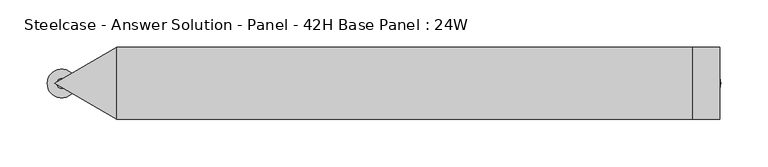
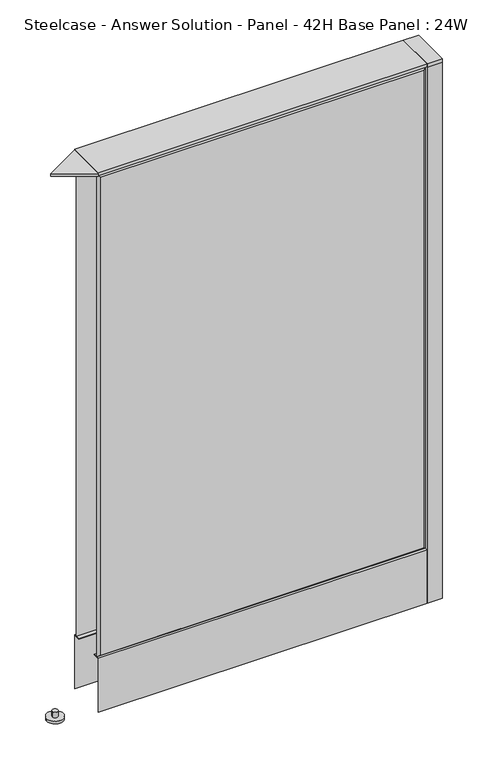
"""IFC4 building model written with IfcOpenShell, lengths in millimetres: furniture geometry, Steelcase - Answer Solution - Panel - 42H Base Panel : 24W."""

import ifcopenshell
import ifcopenshell.guid

model = None  # the IFC model being written
_history = None  # IfcOwnerHistory: only IFC2X3 demands one
_inside = {}  # id of a spatial element -> (the spatial element, [elements in it])
_under = {}  # id of a project, library or spatial element -> (it, [spatial elements below it])
_declared = {}  # id of a project -> (the project, [libraries it declares])
_typed = {}  # id of a type object -> (the type object, [elements of that type])
_made_of = {}  # id of a material, layer set ... -> (it, [elements and type objects made of it])


def new_model(schema):
    """Start an empty IFC model of exactly this schema.

    Asked for "IFC4X3", IfcOpenShell would pick the latest addendum, in which some entities
    have other attributes; the version numbers below select the first issue.
    IFC2X3 requires an IfcOwnerHistory on every rooted entity: one is made here for all.
    """
    global model, _history
    if schema == "IFC4X3":
        model = ifcopenshell.file(schema_version=(4, 3, 0, 0))
    else:
        model = ifcopenshell.file(schema=schema)
    _inside.clear()
    _under.clear()
    _declared.clear()
    _typed.clear()
    _made_of.clear()
    _history = None
    if model.schema == "IFC2X3":
        org = make("IfcOrganization", Name="unknown")
        user = make(
            "IfcPersonAndOrganization",
            ThePerson=make("IfcPerson", FamilyName="unknown"),
            TheOrganization=org,
        )
        app = make(
            "IfcApplication",
            ApplicationDeveloper=org,
            Version="unknown",
            ApplicationFullName="unknown",
            ApplicationIdentifier="unknown",
        )
        _history = make(
            "IfcOwnerHistory",
            OwningUser=user,
            OwningApplication=app,
            ChangeAction="ADDED",
            CreationDate=0,
        )
    return model


def make(cls, **values):
    """One entity of the class cls with the attributes given. An attribute that is None is left unset."""
    return model.create_entity(
        cls, **{name: value for name, value in values.items() if value is not None}
    )


def rooted(cls, **values):
    """An entity with a GlobalId (a new one), such as an element, a storey or a relation."""
    return make(cls, GlobalId=ifcopenshell.guid.new(), OwnerHistory=_history, **values)


def si_unit(unit_type, name, prefix=None):
    """IfcSIUnit, for example si_unit("LENGTHUNIT", "METRE", prefix="MILLI")."""
    return make("IfcSIUnit", UnitType=unit_type, Prefix=prefix, Name=name)


def assignment(units):
    """IfcUnitAssignment: the units of a project."""
    return None if units is None else make("IfcUnitAssignment", Units=units)


def point(xyz):
    """IfcCartesianPoint."""
    return None if xyz is None else make("IfcCartesianPoint", Coordinates=xyz)


def direction(xyz):
    """IfcDirection."""
    return None if xyz is None else make("IfcDirection", DirectionRatios=xyz)


def frame(location, z_axis=None, x_axis=None):
    """IfcAxis2Placement3D, a coordinate frame: its origin and axes. An axis left out is left unset."""
    return make(
        "IfcAxis2Placement3D",
        Location=point(location),
        Axis=direction(z_axis),
        RefDirection=direction(x_axis),
    )


def frame_2d(location, x_axis=None):
    """IfcAxis2Placement2D, a coordinate frame in the plane: its origin and x axis."""
    return make(
        "IfcAxis2Placement2D", Location=point(location), RefDirection=direction(x_axis)
    )


def origin():
    """The frame at (0, 0, 0) with its axes left unset."""
    return frame((0.0, 0.0, 0.0))


def place(relative_to, where):
    """IfcLocalPlacement: puts the frame where relative to a parent placement (None: the world)."""
    return make(
        "IfcLocalPlacement", PlacementRelTo=relative_to, RelativePlacement=where
    )


def context(
    kind, dimensions, precision=None, world=None, true_north=None, identifier=None
):
    """IfcGeometricRepresentationContext, for example the 3D "Model" context."""
    return make(
        "IfcGeometricRepresentationContext",
        ContextIdentifier=identifier,
        ContextType=kind,
        CoordinateSpaceDimension=dimensions,
        Precision=precision,
        WorldCoordinateSystem=world,
        TrueNorth=true_north,
    )


def project(units=None, contexts=None):
    """IfcProject with its units and contexts."""
    return rooted(
        "IfcProject",
        Name="project",
        RepresentationContexts=contexts,
        UnitsInContext=assignment(units),
    )


def spatial(cls, under=None, at=None, **own):
    """A site, building, storey or space (cls), placed at a placement, below another one or the project."""
    s = rooted(cls, ObjectPlacement=at, **own)
    if under is not None:
        _under.setdefault(under.id(), (under, []))[1].append(s)
    return s


def polyline(points):
    """IfcPolyline through the points."""
    return make("IfcPolyline", Points=[point(p) for p in points])


def circle_curve(where, radius):
    """IfcCircle in the frame where."""
    return make("IfcCircle", Position=where, Radius=radius)


def trimmed(basis, trim1, trim2, sense, master):
    """IfcTrimmedCurve: the piece of a basis curve between two trims."""
    return make(
        "IfcTrimmedCurve",
        BasisCurve=basis,
        Trim1=trim1,
        Trim2=trim2,
        SenseAgreement=sense,
        MasterRepresentation=master,
    )


def segment(curve, same_sense, transition):
    """IfcCompositeCurveSegment."""
    return make(
        "IfcCompositeCurveSegment",
        Transition=transition,
        SameSense=same_sense,
        ParentCurve=curve,
    )


def composite_curve(segments, self_intersect=None):
    """IfcCompositeCurve: segments joined end to end."""
    return make("IfcCompositeCurve", Segments=segments, SelfIntersect=self_intersect)


def outline(outer, holes=None, kind="AREA"):
    """IfcArbitraryClosedProfileDef: a profile drawn as a closed curve; with holes, ...WithVoids."""
    if holes is None:
        return make("IfcArbitraryClosedProfileDef", ProfileType=kind, OuterCurve=outer)
    return make(
        "IfcArbitraryProfileDefWithVoids",
        ProfileType=kind,
        OuterCurve=outer,
        InnerCurves=holes,
    )


def extrude(swept, where, along, depth):
    """IfcExtrudedAreaSolid: the profile swept, set in the frame where, extruded along a direction by depth."""
    return make(
        "IfcExtrudedAreaSolid",
        SweptArea=swept,
        Position=where,
        ExtrudedDirection=direction(along),
        Depth=depth,
    )


def faces_of(points, faces, orient=None, outer=None):
    """IfcFace entities. A face is a list of loops; a loop is a list of indices into points, from 0.

    orient and outer hold one flag for each loop. By default every Orientation is true, the
    first loop of a face is its IfcFaceOuterBound and the others are IfcFaceBound.
    """
    made = []
    for i, loops in enumerate(faces):
        bounds = []
        for j, loop in enumerate(loops):
            is_outer = j == 0 if outer is None else outer[i][j]
            bounds.append(
                make(
                    "IfcFaceOuterBound" if is_outer else "IfcFaceBound",
                    Bound=make("IfcPolyLoop", Polygon=[points[k] for k in loop]),
                    Orientation=True if orient is None else orient[i][j],
                )
            )
        made.append(make("IfcFace", Bounds=bounds))
    return made


def faceted_brep(points, faces, orient=None, outer=None, voids=None):
    """IfcFacetedBrep: a solid bounded by flat faces; with voids (closed shells), ...WithVoids."""
    shared = [point(p) for p in points]
    hull = make("IfcClosedShell", CfsFaces=faces_of(shared, faces, orient, outer))
    if voids is None:
        return make("IfcFacetedBrep", Outer=hull)
    return make(
        "IfcFacetedBrepWithVoids",
        Outer=hull,
        Voids=[
            make(cls, CfsFaces=faces_of(shared, fs, o, b)) for cls, fs, o, b in voids
        ],
    )


def shape(context_of_items, identifier, shape_type, items):
    """IfcShapeRepresentation: the items that make up one representation, for example the "Body"."""
    return make(
        "IfcShapeRepresentation",
        ContextOfItems=context_of_items,
        RepresentationIdentifier=identifier,
        RepresentationType=shape_type,
        Items=items,
    )


def source(mapping_origin, context_of_items, identifier, shape_type, items):
    """IfcRepresentationMap: a shape defined once, which mapped items show again and again."""
    return make(
        "IfcRepresentationMap",
        MappingOrigin=mapping_origin,
        MappedRepresentation=shape(context_of_items, identifier, shape_type, items),
    )


def transform(
    local_origin,
    x_axis=None,
    y_axis=None,
    z_axis=None,
    scale=None,
    scale2=None,
    scale3=None,
    uniform=True,
):
    """IfcCartesianTransformationOperator3D, or its non-uniform kind. x_axis, y_axis, z_axis: its Axis1, 2, 3."""
    if uniform:
        return make(
            "IfcCartesianTransformationOperator3D",
            Axis1=direction(x_axis),
            Axis2=direction(y_axis),
            LocalOrigin=point(local_origin),
            Scale=scale,
            Axis3=direction(z_axis),
        )
    return make(
        "IfcCartesianTransformationOperator3DnonUniform",
        Axis1=direction(x_axis),
        Axis2=direction(y_axis),
        LocalOrigin=point(local_origin),
        Scale=scale,
        Axis3=direction(z_axis),
        Scale2=scale2,
        Scale3=scale3,
    )


def mapped(mapping_source, mapping_target):
    """IfcMappedItem: shows the shape of a source again, moved by a transform."""
    return make(
        "IfcMappedItem", MappingSource=mapping_source, MappingTarget=mapping_target
    )


def made_of(thing, what):
    """Note that an element or type object is made of a material, layer set ...; save() writes the relation."""
    if what is not None:
        _made_of.setdefault(what.id(), (what, []))[1].append(thing)
    return thing


def element(
    cls,
    number,
    at=None,
    inside=None,
    cuts=None,
    type_object=None,
    material=None,
    context=None,
    identifier="Body",
    shape_type=None,
    held_by="IfcProductDefinitionShape",
    body=None,
    shapes=None,
    **own,
):
    """One element of the class cls, such as IfcWall. Its Tag is "e" and its number.

    at: its placement. inside: the storey or other place that contains it. cuts: it is an
    opening in that element (IfcRelVoidsElement). A single representation is given by context,
    identifier, shape_type and body (its items); several are given by shapes. held_by: the class
    of the entity that holds the representations. save() writes the other relations.
    """
    e = rooted(cls, Tag="e%d" % number, ObjectPlacement=at, **own)
    if body is not None:
        shapes = [shape(context, identifier, shape_type, body)]
    if shapes is not None:
        e.Representation = make(held_by, Representations=shapes)
    if inside is not None:
        _inside.setdefault(inside.id(), (inside, []))[1].append(e)
    if cuts is not None:
        rooted(
            "IfcRelVoidsElement", RelatingBuildingElement=cuts, RelatedOpeningElement=e
        )
    if type_object is not None:
        _typed.setdefault(type_object.id(), (type_object, []))[1].append(e)
    return made_of(e, material)


def aggregate(whole, parts):
    """IfcRelAggregates: a whole, such as a stair, and the parts it consists of."""
    return rooted("IfcRelAggregates", RelatingObject=whole, RelatedObjects=parts)


def save(model, path):
    """Write the relations noted so far, then the file.

    IfcRelAggregates (storeys below a building ...), IfcRelContainedInSpatialStructure (elements
    in a storey), IfcRelDefinesByType, IfcRelAssociatesMaterial and IfcRelDeclares: one each for
    every whole, place, type object, material and project.
    """
    for whole, parts in _under.values():
        aggregate(whole, parts)
    for where, things in _inside.values():
        rooted(
            "IfcRelContainedInSpatialStructure",
            RelatedElements=things,
            RelatingStructure=where,
        )
    for kind, things in _typed.values():
        rooted("IfcRelDefinesByType", RelatedObjects=things, RelatingType=kind)
    for what, things in _made_of.values():
        rooted("IfcRelAssociatesMaterial", RelatedObjects=things, RelatingMaterial=what)
    for by, libraries in _declared.values():
        rooted("IfcRelDeclares", RelatingContext=by, RelatedDefinitions=libraries)
    model.write(path)


def steelcase_answer_solution_panel_42h_base_panel_24w_6b23bed9(model_context):
    return source(origin(), model_context, "Body", "SolidModel", [
        extrude(outline(composite_curve([segment(trimmed(circle_curve(frame_2d((319.024, -0.0039657)), 5.08), [point((324.104, -0.0039657))], [point((313.944, -0.0039657))], False, "CARTESIAN"), True, "CONTINUOUS"), segment(trimmed(circle_curve(frame_2d((319.024, -0.0039657)), 5.08), [point((313.944, -0.0039657))], [point((324.104, -0.0039657))], False, "CARTESIAN"), True, "CONTINUOUS")], self_intersect=False)), frame((0.0, 0.0, 5.0799671), z_axis=(0.0, 0.0, 1.0), x_axis=(1.0, 0.0, 0.0)), (0.0, 0.0, 1.0), 10.414),
        extrude(outline(composite_curve([segment(trimmed(circle_curve(frame_2d((319.024, -0.0039657)), 15.24), [point((334.264, -0.0039657))], [point((303.784, -0.0039657))], False, "CARTESIAN"), True, "CONTINUOUS"), segment(trimmed(circle_curve(frame_2d((319.024, -0.0039657)), 15.24), [point((303.784, -0.0039657))], [point((334.264, -0.0039657))], False, "CARTESIAN"), True, "CONTINUOUS")], self_intersect=False)), frame((0.0, 0.0, -3.29e-05), z_axis=(0.0, 0.0, 1.0), x_axis=(1.0, 0.0, 0.0)), (0.0, 0.0, 1.0), 5.08),
        extrude(outline(polyline([(333.375, -38.1039851), (304.8, -38.1039851), (304.8, 38.0960149), (333.375, 38.0960149), (333.375, -38.1039851)])), frame((0.0, 0.0, 1065.8348), z_axis=(0.0, 0.0, 1.0), x_axis=(1.0, 0.0, 0.0)), (0.0, 0.0, 1.0), 7.3151671),
        extrude(outline(polyline([(333.375, -38.1039851), (304.8, -38.1039851), (304.8, 38.0960149), (333.375, 38.0960149), (333.375, -38.1039851)])), frame((0.0, 0.0, 15.4939671), z_axis=(0.0, 0.0, 1.0), x_axis=(1.0, 0.0, 0.0)), (0.0, 0.0, 1.0), 1050.3408329),
        extrude(outline(composite_curve([segment(trimmed(circle_curve(frame_2d((-363.22, -0.0039657)), 5.08), [point((-368.3, -0.0039657))], [point((-358.14, -0.0039657))], False, "CARTESIAN"), True, "CONTINUOUS"), segment(trimmed(circle_curve(frame_2d((-363.22, -0.0039657)), 5.08), [point((-358.14, -0.0039657))], [point((-368.3, -0.0039657))], False, "CARTESIAN"), True, "CONTINUOUS")], self_intersect=False)), frame((0.0, 0.0, 5.0799671), z_axis=(0.0, 0.0, 1.0), x_axis=(1.0, 0.0, 0.0)), (0.0, 0.0, 1.0), 10.414),
        extrude(outline(composite_curve([segment(trimmed(circle_curve(frame_2d((-363.22, -0.0039657)), 15.24), [point((-378.46, -0.0039657))], [point((-347.98, -0.0039657))], False, "CARTESIAN"), True, "CONTINUOUS"), segment(trimmed(circle_curve(frame_2d((-363.22, -0.0039657)), 15.24), [point((-347.98, -0.0039657))], [point((-378.46, -0.0039657))], False, "CARTESIAN"), True, "CONTINUOUS")], self_intersect=False)), frame((0.0, 0.0, -3.29e-05), z_axis=(0.0, 0.0, 1.0), x_axis=(1.0, 0.0, 0.0)), (0.0, 0.0, 1.0), 5.08),
        extrude(outline(polyline([(-370.7633991, 0.0254214), (-304.7716604, 38.1243768), (-304.7716604, -38.0756232), (-370.7633991, 0.0254214)])), frame((0.0, 0.0, 1065.8348), z_axis=(0.0, 0.0, 1.0), x_axis=(1.0, 0.0, 0.0)), (0.0, 0.0, 1.0), 5.4356),
        faceted_brep([(-299.974, -38.1635011, 1061.974), (-299.974, -38.1635011, 125.476), (299.974, -38.1635011, 125.476), (299.974, -38.1635011, 1061.974), (-304.8, -33.3375011, 1066.8), (304.8, -33.3375011, 1066.8), (304.8, -33.3375011, 120.65), (-304.8, -33.3375011, 120.65)], [[[0, 1, 2, 3]], [[4, 5, 6, 7]], [[4, 0, 3, 5]], [[5, 3, 2, 6]], [[6, 2, 1, 7]], [[7, 1, 0, 4]]]),
        faceted_brep([(299.974, 38.1635011, 1061.974), (299.974, 38.1635011, 125.476), (-299.974, 38.1635011, 125.476), (-299.974, 38.1635011, 1061.974), (304.8, 33.3375011, 1066.8), (-304.8, 33.3375011, 1066.8), (-304.8, 33.3375011, 120.65), (304.8, 33.3375011, 120.65)], [[[0, 1, 2, 3]], [[4, 5, 6, 7]], [[4, 0, 3, 5]], [[5, 3, 2, 6]], [[6, 2, 1, 7]], [[7, 1, 0, 4]]]),
        extrude(outline(polyline([(304.8, -38.1000194), (-304.8, -38.1000194), (-304.8, 38.1000194), (304.8, 38.1000194), (304.8, -38.1000194)])), frame((0.0, 0.0, 1066.8), z_axis=(0.0, 0.0, 1.0), x_axis=(1.0, 0.0, 0.0)), (0.0, 0.0, 1.0), 6.35),
        extrude(outline(polyline([(-25.4000011, 119.8575157), (-37.3075215, 119.8575157), (-37.3075215, 15.494), (-38.1000194, 15.494), (-38.1000194, 120.65), (-25.4000011, 120.65), (-25.4000011, 119.8575157)])), frame((-304.8, 0.0, 0.0), z_axis=(1.0, 0.0, 0.0), x_axis=(0.0, 1.0, 0.0)), (0.0, 0.0, 1.0), 609.6),
        extrude(outline(polyline([(25.4000011, 119.8575157), (25.4000011, 120.65), (38.1000194, 120.65), (38.1000194, 15.494), (37.3075215, 15.494), (37.3075215, 119.8575157), (25.4000011, 119.8575157)])), frame((-304.8, 0.0, 0.0), z_axis=(1.0, 0.0, 0.0), x_axis=(0.0, 1.0, 0.0)), (0.0, 0.0, 1.0), 609.6),
    ])


if __name__ == "__main__":
    model = new_model("IFC4")
    model_context = context("Model", 3, world=origin())
    ifc_project = project(units=[si_unit("LENGTHUNIT", "METRE", prefix="MILLI")], contexts=[model_context])
    site = spatial("IfcSite", under=ifc_project)
    building = spatial("IfcBuilding", under=site)
    placement = place(None, origin())
    steelcase_answer_solution_panel_42h_base_panel_24w_shape = steelcase_answer_solution_panel_42h_base_panel_24w_6b23bed9(model_context)
    element("IfcFurniture", 1, ObjectType="Steelcase - Answer Solution - Panel - 42H Base Panel : 24W", at=placement, inside=building, context=model_context, shape_type="MappedRepresentation", body=[
        mapped(steelcase_answer_solution_panel_42h_base_panel_24w_shape, transform((0.0, 0.0, 0.0), x_axis=(1.0, 0.0, 0.0), y_axis=(0.0, 1.0, 0.0), z_axis=(0.0, 0.0, 1.0))),
    ])
    save(model, "model.ifc")
